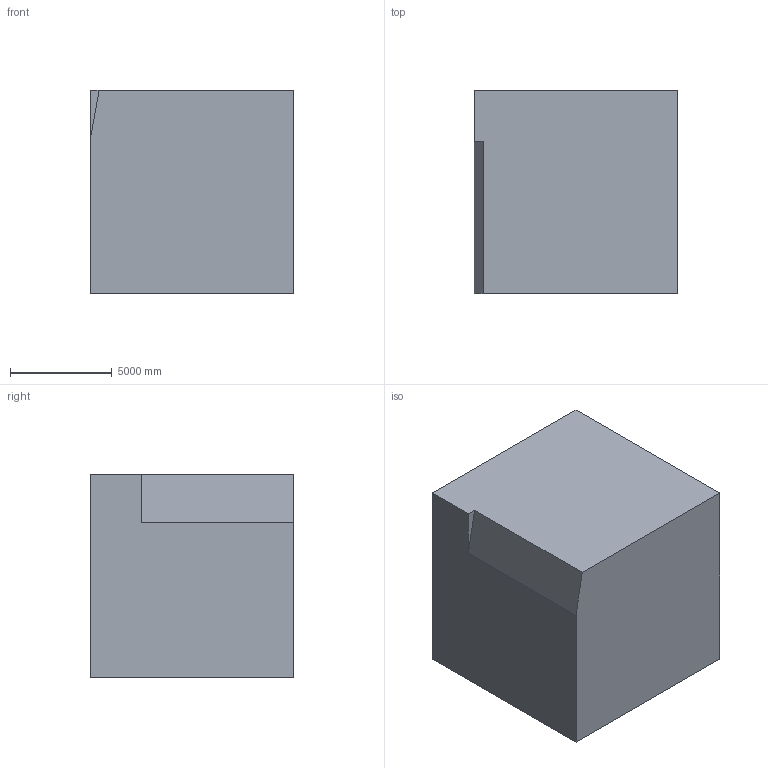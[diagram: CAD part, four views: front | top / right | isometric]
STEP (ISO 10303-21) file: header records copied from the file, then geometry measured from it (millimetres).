
FILE_DESCRIPTION (( 'STEP AP203' ), '1' );
FILE_NAME ('19.STEP', '2022-09-01T11:37:32', ( 'user' ), ( '' ), 'SwSTEP 2.0', 'SolidWorks 2021', '' );
FILE_SCHEMA (( 'CONFIG_CONTROL_DESIGN' ));
Length unit declared in the file: centimetre
Products named in the file (1): 19
Bounding box: 10000 x 10000 x 10000 mm (x, y, z)
Volume: 947462456852.8 mm3; surface area: 668425364.1 mm2
Topology: 1 solids, 1 shells, 15 faces, 36 edges, 24 vertices
Faces by surface type: plane 15
Entity records: 507 total; most frequent: CARTESIAN_POINT 76, ORIENTED_EDGE 72, DIRECTION 68, VECTOR 36, EDGE_CURVE 36, LINE 36, VERTEX_POINT 24, EDGE_LOOP 16
